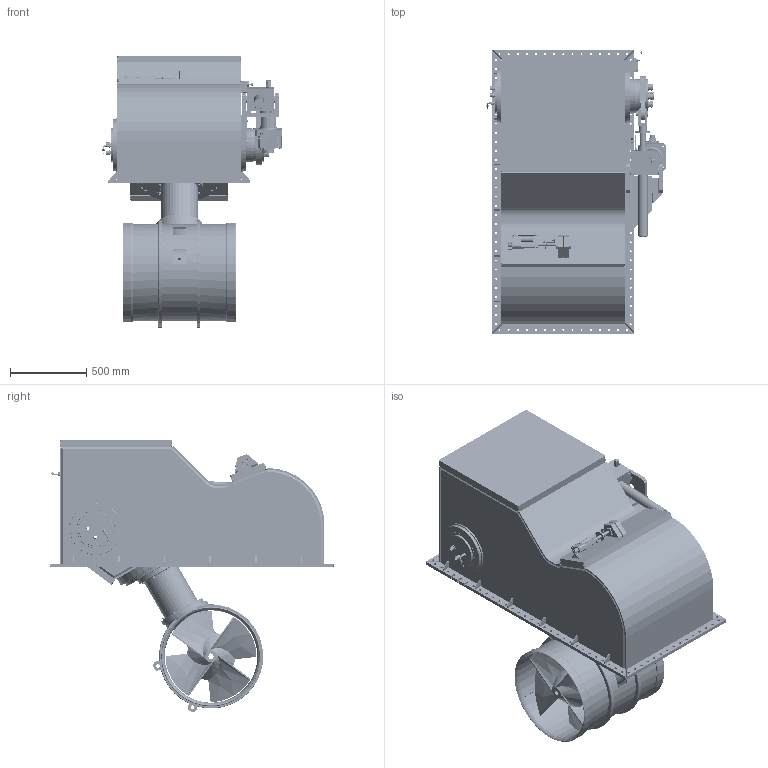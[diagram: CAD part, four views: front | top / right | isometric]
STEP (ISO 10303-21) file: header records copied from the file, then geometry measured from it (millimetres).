
FILE_DESCRIPTION(/* description */ (''),/* implementation_level */ '2;1');
FILE_NAME(/* name */ 'Q:\THRUSTERS\THRUSTER SALES & SUPPORT DOCS\THRUSTER Sales\E-S\E-0600-S\E-0600-S-DEPLOYED.stp',/* time_stamp */ '2021-03-24T13:58:24+00:00',/* author */ ('Barney.Webborn'),/* organization */ (''),/* preprocessor_version */ 'ST-DEVELOPER v17.2',/* originating_system */ 'Autodesk Inventor 2019',/* authorisation */ '');
FILE_SCHEMA (('AUTOMOTIVE_DESIGN { 1 0 10303 214 3 1 1 }'));
Products named in the file (1): E-0600-S_Shrinkwrap_1
Bounding box: 1182.75 x 1863 x 1792.86 mm (x, y, z)
Volume: 183685624.6 mm3; surface area: 23512959 mm2
Topology: 7 solids, 7 shells, 3484 faces, 9206 edges, 6056 vertices
Faces by surface type: plane 2031, cylinder 1043, cone 251, torus 88, bspline 44, sphere 27
Full cylindrical faces by diameter (mm): 0.5 x5, 1 x9, 3 x6, 5 x1, 5.5 x4, 5.6 x4, 5.9 x8, 6 x10, 7 x8, 7.2 x2, 7.6 x8, 8 x10, 8.5 x8, 9.2 x4, 9.5 x1, 9.95 x6, 10.56 x1, 11.3 x1, 12 x2, 12.3 x3, 12.4 x24, 12.5 x36, 13 x107, 13.5 x8, 14.662 x2, 14.9 x1, 15.25 x1, 15.3 x1, 15.4 x8, 16 x5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
Entity records: 116168 total; most frequent: CARTESIAN_POINT 23506, DIRECTION 18989, ORIENTED_EDGE 18276, EDGE_CURVE 9138, AXIS2_PLACEMENT_3D 6948, VERTEX_POINT 6057, LINE 5093, VECTOR 5093
